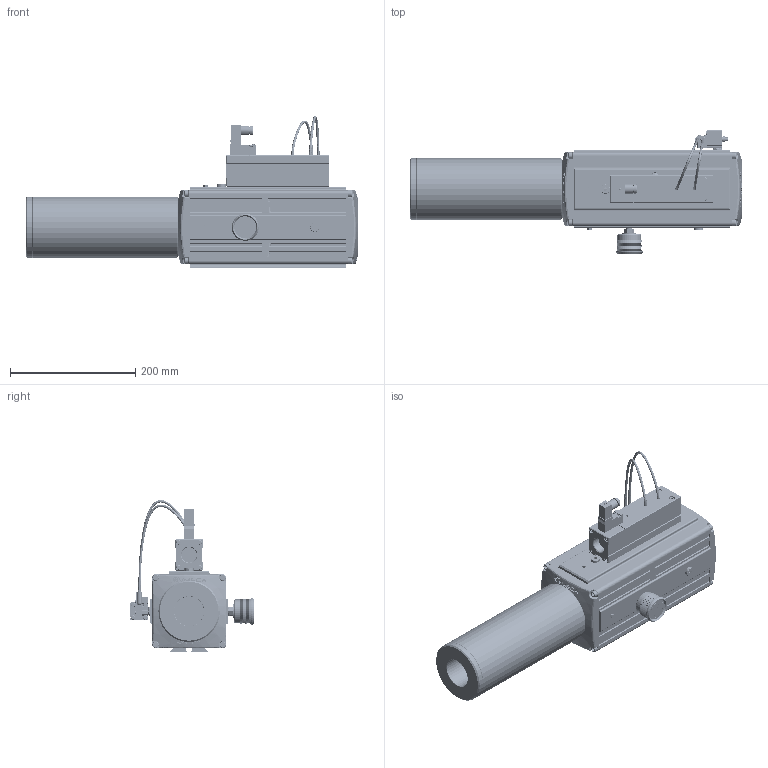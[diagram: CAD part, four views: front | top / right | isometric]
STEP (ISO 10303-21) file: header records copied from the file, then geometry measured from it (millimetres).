
FILE_DESCRIPTION( ( 'Unknown' ), '1' );
FILE_NAME( 'C:/Documents and Settings/Administrator/官帕 拳搁/MPM 荐沥霸捞瘤/MPM303X10-02S-ASV-A3-DL.stp', 'Unknown', ( 'Unknown' ), ( 'Unknown' ), 'PSStep 10.0', 'Unknown', ' ' );
FILE_SCHEMA( ( 'AUTOMOTIVE_DESIGN { 1 0 10303 214 1 1 1 1 }' ) );
Length unit declared in the file: millimetre
Products named in the file (28): SILENCER_0_0; Assem1; VMS34-B-ASV(DIM); VPS-01-1; VPS-01; VPS-01(H); COVER_0_0; ELEMENT_7; SPONGE_7; END CAP_7; DIN Valve_1; FITTING; BODY-A(ASV)(DIM); BODY-B-ASV(DIM); M6-Bolt_10; VTP18_13; END CAP-212_10; VTP-M5_13; red_10; END CAP-112_3; Air Cirquit_10; Double Tread 18M-18M_2; 1_0; 2; Body(re1)(dim)_2; VTP-M5; VTP18; 1
Bounding box: 530 x 197.8 x 242.59 mm (x, y, z)
Volume: 13596220.8 mm3; surface area: 2153737.6 mm2
Topology: 74 solids, 80 shells, 7023 faces, 17782 edges, 11564 vertices
Faces by surface type: plane 4446, cylinder 1504, cone 427, extrusion 250, torus 169, bspline 122, sphere 96, revolution 9
Full cylindrical faces by diameter (mm): 0.518 x2, 0.884 x4, 1 x5, 1.008 x9, 1.5 x6, 1.8 x6, 1.9 x5, 2 x5, 2.2 x6, 2.3 x14, 2.5 x14, 3 x11, 3.2 x6, 3.4 x12, 4 x12, 4.075 x4, 4.2 x52, 4.336 x3, 4.5 x12, 4.552 x4, 4.619 x5, 5 x9, 5.2 x12, 5.5 x17, 6 x13, 6.064 x3, 6.337 x4, 6.5 x16, 6.535 x3, 6.8 x14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
Entity records: 121279 total; most frequent: CARTESIAN_POINT 30551, DIRECTION 13525, ORIENTED_EDGE 13366, EDGE_CURVE 6683, VERTEX_POINT 4581, AXIS2_PLACEMENT_3D 4578, VECTOR 4366, LINE 4268
